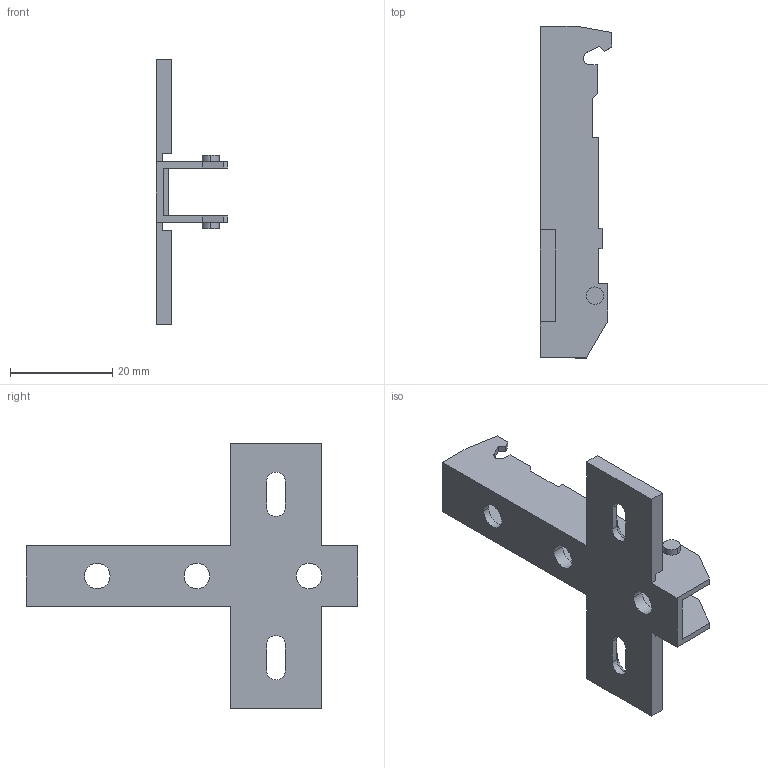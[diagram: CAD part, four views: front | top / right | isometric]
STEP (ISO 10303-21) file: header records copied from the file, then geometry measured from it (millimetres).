
FILE_DESCRIPTION (( 'STEP AP214' ), '1' );
FILE_NAME ('Eco Kreuzmontageplatte LR28_32_Spax_H3,5.step', '2010-11-18T10:05:34', ( 'grass' ), ( '' ), 'SwSTEP 2.0', 'SolidWorks 2010', '' );
FILE_SCHEMA (( 'AUTOMOTIVE_DESIGN' ));
Length unit declared in the file: millimetre
Products named in the file (1): Eco Kreuzmontageplatte LR28_32_Spax_H3,5
Bounding box: 14 x 65 x 52 mm (x, y, z)
Volume: 4651.1 mm3; surface area: 6178.4 mm2
Topology: 1 solids, 1 shells, 90 faces, 250 edges, 164 vertices
Faces by surface type: plane 70, cylinder 16, cone 4
Entity records: 2900 total; most frequent: CARTESIAN_POINT 505, ORIENTED_EDGE 500, DIRECTION 468, EDGE_CURVE 250, VECTOR 214, LINE 214, VERTEX_POINT 164, AXIS2_PLACEMENT_3D 127
